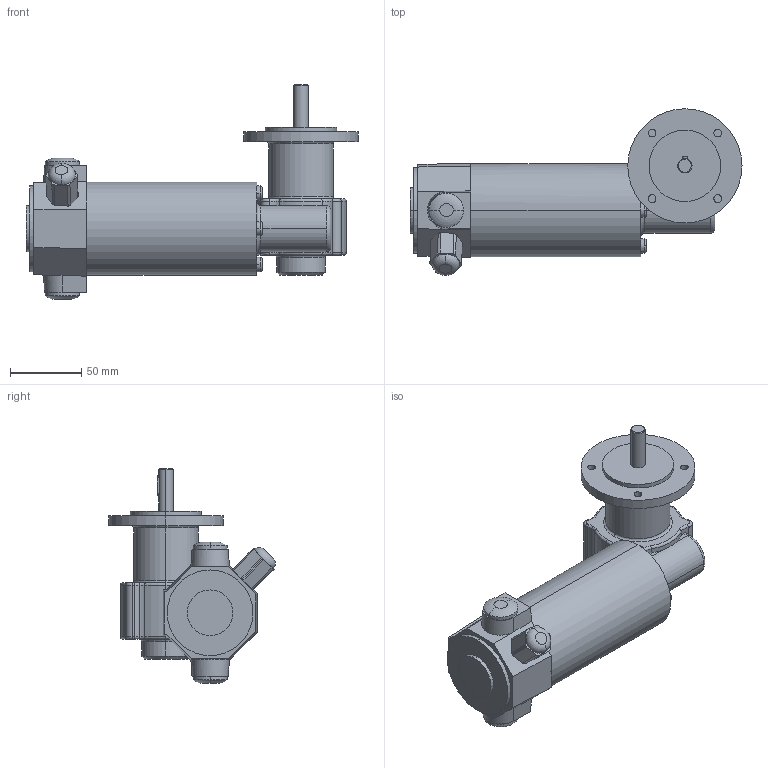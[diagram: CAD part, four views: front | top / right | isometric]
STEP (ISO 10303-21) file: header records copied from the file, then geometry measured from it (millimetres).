
FILE_DESCRIPTION(('OneSpaceDesigner STEP Export'),'2;1');
FILE_NAME('EPG04_GF126-10.stp','2008-07-02T14:11:38',(''),(''),'OneSpace Designer STEP processor (Jan. 2003) for AP214(CD)(Solid Model)','OneSpace Designer 12.01D 09-Jul-2004 (C) CoCreate Software GmbH','');
FILE_SCHEMA(('AUTOMOTIVE_DESIGN_CC2 {1 2 10303 214 -1 1 5 1}'));
Length unit declared in the file: millimetre
Products named in the file (2): EPG04_GF126-10
Assembly tree (1 placements, depth 2):
  EPG04_GF126-10
    EPG04_GF126-10
Bounding box: 232.5 x 116.58 x 150.5 mm (x, y, z)
Volume: 843280.9 mm3; surface area: 76496.9 mm2
Topology: 1 solids, 1 shells, 214 faces, 517 edges, 321 vertices
Faces by surface type: cylinder 85, torus 72, plane 51, cone 4, bspline 2
Entity records: 8037 total; most frequent: CARTESIAN_POINT 3497, ORIENTED_EDGE 1034, DIRECTION 859, EDGE_CURVE 517, AXIS2_PLACEMENT_3D 352, VERTEX_POINT 321, EDGE_LOOP 238, FACE_OUTER_BOUND 214
